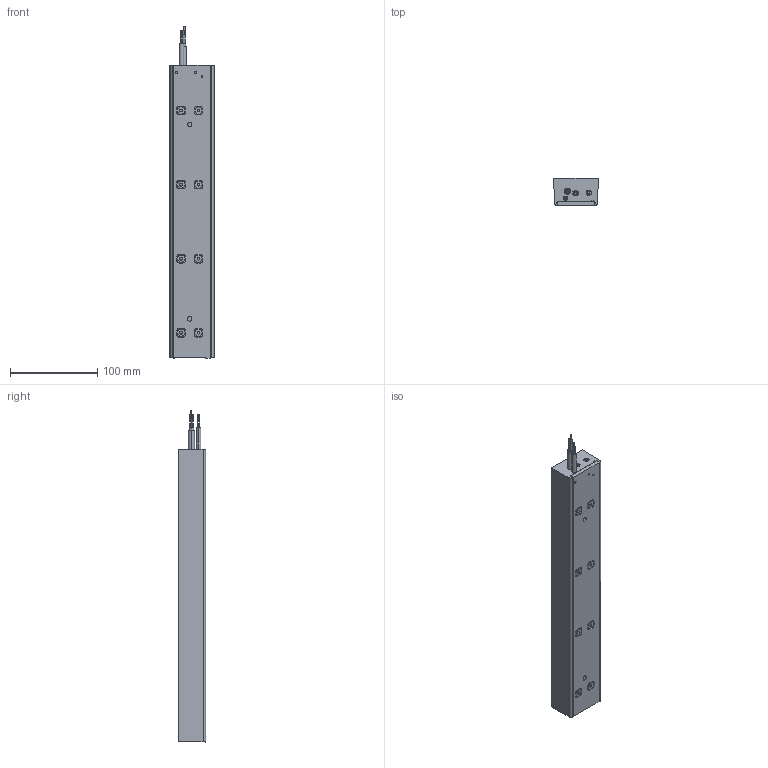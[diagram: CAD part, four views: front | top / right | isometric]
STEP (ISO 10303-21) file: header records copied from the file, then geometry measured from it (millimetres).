
FILE_DESCRIPTION (( 'STEP AP203' ), '1' );
FILE_NAME ('Assembly IC50-18.STEP', '2020-10-22T06:00:29', ( '' ), ( '' ), 'SwSTEP 2.0', 'SolidWorks 2018', '' );
FILE_SCHEMA (( 'CONFIG_CONTROL_DESIGN' ));
Length unit declared in the file: millimetre
Products named in the file (7): power cable IC50 3D; IC50-18 resin; M3 nut hall module for 3D CU; sensor cable 3D; Assembly IC50-18; IC50-18 housing; IC-50 dovetail rounded
Assembly tree (10 placements, depth 2):
  Assembly IC50-18
    IC50-18 housing
    IC-50 dovetail rounded  x4
    IC50-18 resin
    power cable IC50 3D
    sensor cable 3D
    M3 nut hall module for 3D CU  x2
Bounding box: 50.93 x 31.28 x 381 mm (x, y, z)
Volume: 531573.5 mm3; surface area: 104619.7 mm2
Topology: 11 solids, 11 shells, 610 faces, 1637 edges, 1056 vertices
Faces by surface type: plane 304, cylinder 268, torus 26, sphere 12
Entity records: 14767 total; most frequent: CARTESIAN_POINT 3149, DIRECTION 2306, ORIENTED_EDGE 2242, EDGE_CURVE 1121, AXIS2_PLACEMENT_3D 823, VERTEX_POINT 732, VECTOR 660, LINE 660
